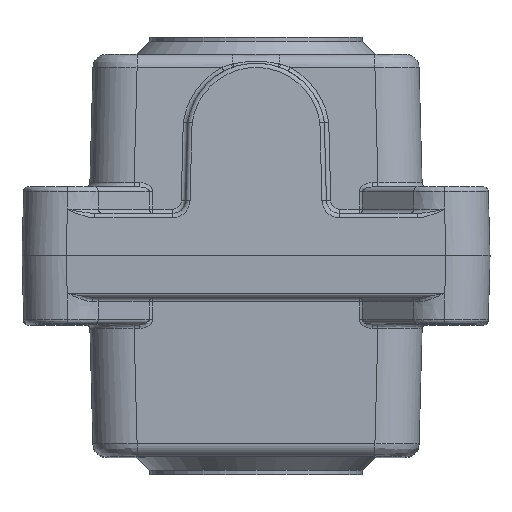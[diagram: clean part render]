
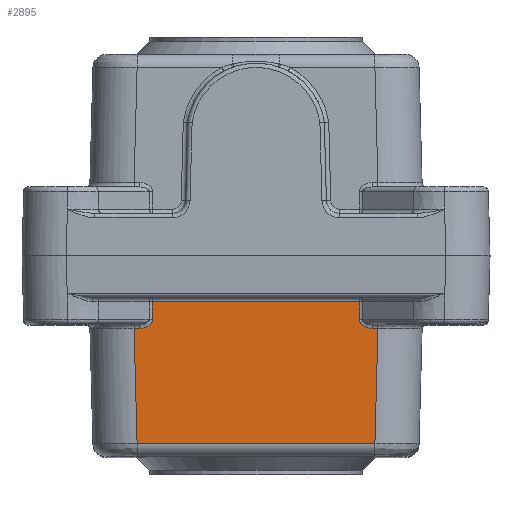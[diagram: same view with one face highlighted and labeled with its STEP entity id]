
A CAD part, top view. The second image highlights one B-rep face of the part: STEP entity #2895.
In plain terms, the highlighted planar face has unit normal (0, -0.026, 1) as drawn and (0, 0.026, 1) by its records, which use the part's own axes.
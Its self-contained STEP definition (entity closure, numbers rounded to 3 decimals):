
#2895=ADVANCED_FACE('',(#13296),#13298,.T.);
#13296=FACE_BOUND('',#13297,.T.);
#13297=EDGE_LOOP('',(#18947,#18948,#18949,#18950,#18951,#18952,#18953,#18954,#18955,
#18956));
#13298=PLANE('',#13299);
#13299=AXIS2_PLACEMENT_3D('',#13300,#13301,#13302);
#13300=CARTESIAN_POINT('',(-23.851,9.5,65.518));
#13301=DIRECTION('',(0.,0.026,1.));
#13302=DIRECTION('',(1.,0.,0.));
#18947=ORIENTED_EDGE('',*,*,#20455,.T.);
#18948=ORIENTED_EDGE('',*,*,#20456,.T.);
#18949=ORIENTED_EDGE('',*,*,#20457,.F.);
#18950=ORIENTED_EDGE('',*,*,#20458,.T.);
#18951=ORIENTED_EDGE('',*,*,#20459,.T.);
#18952=ORIENTED_EDGE('',*,*,#20439,.F.);
#18953=ORIENTED_EDGE('',*,*,#20460,.F.);
#18954=ORIENTED_EDGE('',*,*,#20461,.T.);
#18955=ORIENTED_EDGE('',*,*,#20462,.F.);
#18956=ORIENTED_EDGE('',*,*,#20463,.F.);
#20439=EDGE_CURVE('',#21934,#21935,#21936,.T.);
#20455=EDGE_CURVE('',#21958,#21959,#21960,.T.);
#20456=EDGE_CURVE('',#21959,#21961,#21962,.T.);
#20457=EDGE_CURVE('',#21963,#21961,#21964,.T.);
#20458=EDGE_CURVE('',#21963,#21965,#21966,.T.);
#20459=EDGE_CURVE('',#21965,#21935,#21967,.T.);
#20460=EDGE_CURVE('',#21968,#21934,#21969,.T.);
#20461=EDGE_CURVE('',#21968,#21970,#21971,.T.);
#20462=EDGE_CURVE('',#21972,#21970,#21973,.F.);
#20463=EDGE_CURVE('',#21958,#21972,#21974,.T.);
#21934=VERTEX_POINT('',#33247);
#21935=VERTEX_POINT('',#33248);
#21936=LINE('',#33249,#33250);
#21958=VERTEX_POINT('',#33683);
#21959=VERTEX_POINT('',#33684);
#21960=LINE('',#33685,#33686);
#21961=VERTEX_POINT('',#33688);
#21962=LINE('',#33689,#33690);
#21963=VERTEX_POINT('',#33692);
#21964=B_SPLINE_CURVE_WITH_KNOTS('',3,
(#33693,#33694,#33695,#33696,#33697,#33698,#33699,#33700,#33701,#33702,#33703,#33704,
#33705,#33706,#33707,#33708,#33709,#33710,#33711,#33712,#33713,#33714,#33715,#33716,
#33717,#33718),
.UNSPECIFIED.,.F.,.F.,
(4,2,2,2,2,2,2,2,2,2,2,2,4),
(0.,0.122,0.244,0.36,0.462,0.552,
0.633,0.708,0.779,0.848,0.916,
0.985,1.),
.UNSPECIFIED.);
#21965=VERTEX_POINT('',#33719);
#21966=LINE('',#33720,#33721);
#21967=LINE('',#33723,#33724);
#21968=VERTEX_POINT('',#33726);
#21969=LINE('',#33727,#33728);
#21970=VERTEX_POINT('',#33730);
#21971=LINE('',#33731,#33732);
#21972=VERTEX_POINT('',#33734);
#21973=B_SPLINE_CURVE_WITH_KNOTS('',3,
(#33735,#33736,#33737,#33738,#33739,#33740,#33741,#33742,#33743,#33744,#33745,#33746,
#33747,#33748,#33749,#33750,#33751,#33752,#33753,#33754,#33755,#33756,#33757,#33758,
#33759,#33760),
.UNSPECIFIED.,.F.,.F.,
(4,2,2,2,2,2,2,2,2,2,2,2,4),
(0.,0.122,0.244,0.36,0.462,0.552,
0.633,0.708,0.779,0.848,0.916,
0.985,1.),
.UNSPECIFIED.);
#21974=LINE('',#33761,#33762);
#33247=CARTESIAN_POINT('',(-26.906,42.579,64.652));
#33248=CARTESIAN_POINT('',(26.906,42.579,64.652));
#33249=CARTESIAN_POINT('',(-26.906,42.579,64.652));
#33250=VECTOR('',#33251,1.);
#33251=DIRECTION('',(1.,0.,0.));
#33683=CARTESIAN_POINT('',(-23.448,10.474,65.493));
#33684=CARTESIAN_POINT('',(23.448,10.474,65.493));
#33685=CARTESIAN_POINT('',(-23.448,10.474,65.493));
#33686=VECTOR('',#33687,1.);
#33687=DIRECTION('',(1.,0.,0.));
#33688=CARTESIAN_POINT('',(23.492,14.526,65.387));
#33689=CARTESIAN_POINT('',(23.448,10.474,65.493));
#33690=VECTOR('',#33691,1.);
#33691=DIRECTION('',(0.011,1.,-0.026));
#33692=CARTESIAN_POINT('',(26.268,16.474,65.336));
#33693=CARTESIAN_POINT('',(26.268,16.474,65.336));
#33694=CARTESIAN_POINT('',(26.105,16.469,65.336));
#33695=CARTESIAN_POINT('',(25.941,16.465,65.336));
#33696=CARTESIAN_POINT('',(25.608,16.422,65.337));
#33697=CARTESIAN_POINT('',(25.435,16.389,65.338));
#33698=CARTESIAN_POINT('',(25.113,16.301,65.34));
#33699=CARTESIAN_POINT('',(24.956,16.248,65.342));
#33700=CARTESIAN_POINT('',(24.679,16.127,65.345));
#33701=CARTESIAN_POINT('',(24.552,16.062,65.346));
#33702=CARTESIAN_POINT('',(24.333,15.926,65.35));
#33703=CARTESIAN_POINT('',(24.236,15.856,65.352));
#33704=CARTESIAN_POINT('',(24.069,15.717,65.355));
#33705=CARTESIAN_POINT('',(23.995,15.647,65.357));
#33706=CARTESIAN_POINT('',(23.869,15.508,65.361));
#33707=CARTESIAN_POINT('',(23.815,15.438,65.363));
#33708=CARTESIAN_POINT('',(23.721,15.301,65.366));
#33709=CARTESIAN_POINT('',(23.681,15.232,65.368));
#33710=CARTESIAN_POINT('',(23.615,15.097,65.372));
#33711=CARTESIAN_POINT('',(23.587,15.03,65.373));
#33712=CARTESIAN_POINT('',(23.543,14.897,65.377));
#33713=CARTESIAN_POINT('',(23.527,14.831,65.379));
#33714=CARTESIAN_POINT('',(23.502,14.699,65.382));
#33715=CARTESIAN_POINT('',(23.495,14.634,65.384));
#33716=CARTESIAN_POINT('',(23.492,14.555,65.386));
#33717=CARTESIAN_POINT('',(23.492,14.541,65.386));
#33718=CARTESIAN_POINT('',(23.492,14.526,65.387));
#33719=CARTESIAN_POINT('',(27.589,16.474,65.336));
#33720=CARTESIAN_POINT('',(26.268,16.474,65.336));
#33721=VECTOR('',#33722,1.);
#33722=DIRECTION('',(1.,0.,0.));
#33723=CARTESIAN_POINT('',(27.589,16.474,65.336));
#33724=VECTOR('',#33725,1.);
#33725=DIRECTION('',(-0.026,0.999,-0.026));
#33726=CARTESIAN_POINT('',(-27.589,16.474,65.336));
#33727=CARTESIAN_POINT('',(-27.589,16.474,65.336));
#33728=VECTOR('',#33729,1.);
#33729=DIRECTION('',(0.026,0.999,-0.026));
#33730=CARTESIAN_POINT('',(-26.268,16.474,65.336));
#33731=CARTESIAN_POINT('',(-27.589,16.474,65.336));
#33732=VECTOR('',#33733,1.);
#33733=DIRECTION('',(1.,0.,0.));
#33734=CARTESIAN_POINT('',(-23.492,14.526,65.387));
#33735=CARTESIAN_POINT('',(-26.268,16.474,65.336));
#33736=CARTESIAN_POINT('',(-26.105,16.469,65.336));
#33737=CARTESIAN_POINT('',(-25.941,16.465,65.336));
#33738=CARTESIAN_POINT('',(-25.608,16.422,65.337));
#33739=CARTESIAN_POINT('',(-25.435,16.389,65.338));
#33740=CARTESIAN_POINT('',(-25.113,16.301,65.34));
#33741=CARTESIAN_POINT('',(-24.956,16.248,65.342));
#33742=CARTESIAN_POINT('',(-24.679,16.127,65.345));
#33743=CARTESIAN_POINT('',(-24.552,16.062,65.346));
#33744=CARTESIAN_POINT('',(-24.333,15.926,65.35));
#33745=CARTESIAN_POINT('',(-24.236,15.856,65.352));
#33746=CARTESIAN_POINT('',(-24.069,15.717,65.355));
#33747=CARTESIAN_POINT('',(-23.995,15.647,65.357));
#33748=CARTESIAN_POINT('',(-23.869,15.508,65.361));
#33749=CARTESIAN_POINT('',(-23.815,15.438,65.363));
#33750=CARTESIAN_POINT('',(-23.721,15.301,65.366));
#33751=CARTESIAN_POINT('',(-23.681,15.232,65.368));
#33752=CARTESIAN_POINT('',(-23.615,15.097,65.372));
#33753=CARTESIAN_POINT('',(-23.587,15.03,65.373));
#33754=CARTESIAN_POINT('',(-23.543,14.897,65.377));
#33755=CARTESIAN_POINT('',(-23.527,14.831,65.379));
#33756=CARTESIAN_POINT('',(-23.502,14.699,65.382));
#33757=CARTESIAN_POINT('',(-23.495,14.634,65.384));
#33758=CARTESIAN_POINT('',(-23.492,14.555,65.386));
#33759=CARTESIAN_POINT('',(-23.492,14.541,65.386));
#33760=CARTESIAN_POINT('',(-23.492,14.526,65.387));
#33761=CARTESIAN_POINT('',(-23.448,10.474,65.493));
#33762=VECTOR('',#33763,1.);
#33763=DIRECTION('',(-0.011,1.,-0.026));
